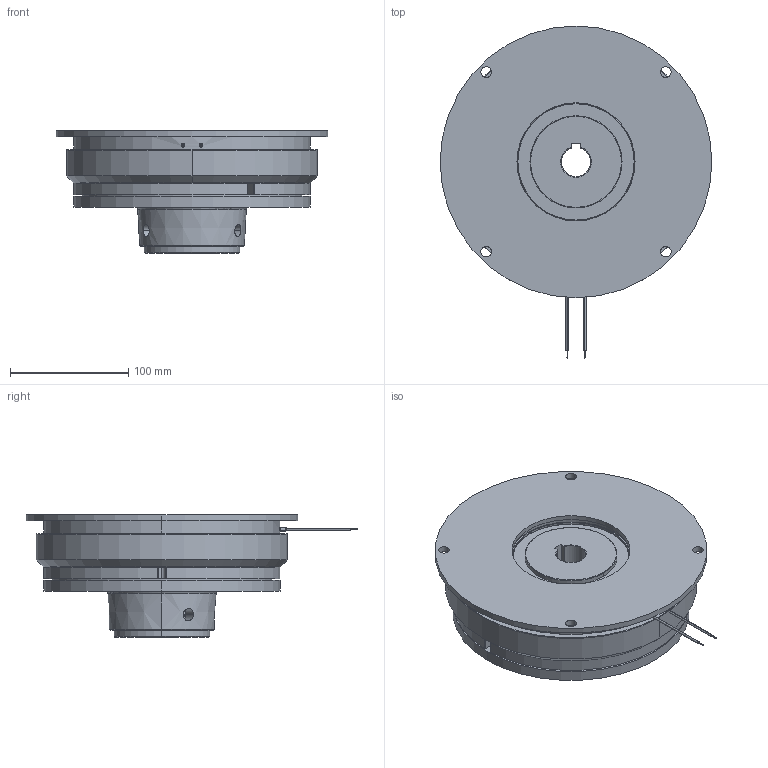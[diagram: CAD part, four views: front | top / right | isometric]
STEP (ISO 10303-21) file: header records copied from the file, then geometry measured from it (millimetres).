
FILE_DESCRIPTION (( 'STEP AP214' ), '1' );
FILE_NAME ('dr_bk_1103-130_mu.STEP', '2021-11-17T09:02:46', ( '' ), ( '' ), 'SwSTEP 2.0', 'SolidWorks 2019', '' );
FILE_SCHEMA (( 'AUTOMOTIVE_DESIGN' ));
Length unit declared in the file: millimetre
Products named in the file (12): 10068881_000; 10068876_000; 10068887_000; 10069122_000; 10068888_000; 10068879_000; 10069134_000; 10068878_000_eingebaut in Ankerteil 11.02.010-0009; 10068878_000_eingebaut in Ankerteil 11.02.030-0000; dr_bk_1103-130_mu; 10068877_000; 10068890_000_M 12 x 20
Assembly tree (21 placements, depth 4):
  dr_bk_1103-130_mu
    10069122_000
    10069134_000
    10068887_000
      10068888_000
      10068876_000
        10068877_000
        10068879_000
        10068878_000_eingebaut in Ankerteil 11.02.010-0009  x3
        10068881_000  x3
      10068881_000  x3
      10068878_000_eingebaut in Ankerteil 11.02.030-0000  x3
      10068890_000_M 12 x 20  x2
Bounding box: 230 x 281 x 103.55 mm (x, y, z)
Volume: 2139320.2 mm3; surface area: 392690.9 mm2
Topology: 21 solids, 21 shells, 428 faces, 998 edges, 616 vertices
Faces by surface type: cylinder 199, cone 98, plane 94, torus 25, sphere 12
Entity records: 11422 total; most frequent: CARTESIAN_POINT 2102, DIRECTION 1761, ORIENTED_EDGE 1452, AXIS2_PLACEMENT_3D 734, EDGE_CURVE 726, VERTEX_POINT 459, CIRCLE 401, EDGE_LOOP 389
